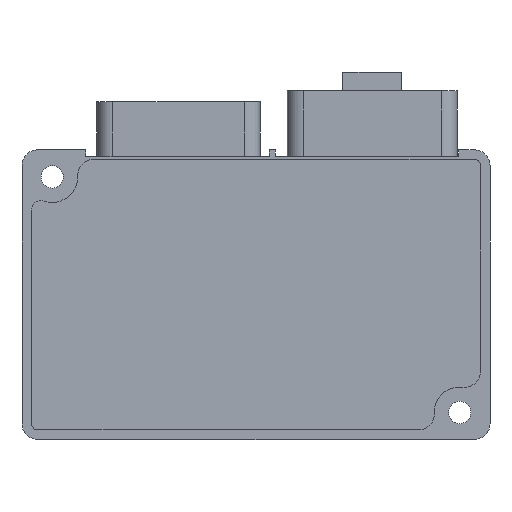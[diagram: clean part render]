
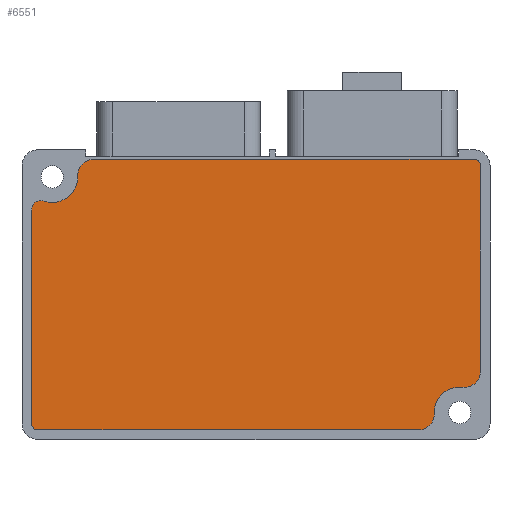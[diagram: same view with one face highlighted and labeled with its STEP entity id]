
A CAD part, front view. The second image highlights one B-rep face of the part: STEP entity #6551.
In plain terms, the highlighted planar face has unit normal (0, -1, 0).
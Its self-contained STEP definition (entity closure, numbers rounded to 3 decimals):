
#622=CARTESIAN_POINT('',(-67.5,-26.7,26.572));
#623=DIRECTION('',(0.,-1.,0.));
#624=DIRECTION('',(0.318,0.,0.948));
#625=AXIS2_PLACEMENT_3D('',#622,#623,#624);
#627=CARTESIAN_POINT('',(-64.,-26.7,37.));
#628=DIRECTION('',(0.,1.,0.));
#629=DIRECTION('',(0.999,0.,0.038));
#630=AXIS2_PLACEMENT_3D('',#627,#628,#629);
#632=CARTESIAN_POINT('',(-51.01,-26.7,37.5));
#633=DIRECTION('',(0.,-1.,0.));
#634=DIRECTION('',(0.,0.,1.));
#635=AXIS2_PLACEMENT_3D('',#632,#633,#634);
#637=DIRECTION('',(-1.,0.,0.));
#638=VECTOR('',#637,119.51);
#639=CARTESIAN_POINT('',(68.5,-26.7,42.5));
#640=LINE('',#639,#638);
#641=CARTESIAN_POINT('',(68.5,-26.7,40.5));
#642=DIRECTION('',(0.,-1.,0.));
#643=DIRECTION('',(1.,0.,0.));
#644=AXIS2_PLACEMENT_3D('',#641,#642,#643);
#646=DIRECTION('',(0.,0.,1.));
#647=VECTOR('',#646,64.587);
#648=CARTESIAN_POINT('',(70.5,-26.7,-24.087));
#649=LINE('',#648,#647);
#650=CARTESIAN_POINT('',(65.5,-26.7,-24.087));
#651=DIRECTION('',(0.,-1.,0.));
#652=DIRECTION('',(-0.115,0.,-0.993));
#653=AXIS2_PLACEMENT_3D('',#650,#651,#652);
#655=CARTESIAN_POINT('',(64.,-26.7,-37.));
#656=DIRECTION('',(0.,1.,0.));
#657=DIRECTION('',(-0.999,0.,-0.038));
#658=AXIS2_PLACEMENT_3D('',#655,#656,#657);
#660=CARTESIAN_POINT('',(51.01,-26.7,-37.5));
#661=DIRECTION('',(0.,-1.,0.));
#662=DIRECTION('',(0.,0.,-1.));
#663=AXIS2_PLACEMENT_3D('',#660,#661,#662);
#665=DIRECTION('',(1.,0.,0.));
#666=VECTOR('',#665,119.51);
#667=CARTESIAN_POINT('',(-68.5,-26.7,-42.5));
#668=LINE('',#667,#666);
#669=CARTESIAN_POINT('',(-68.5,-26.7,-40.5));
#670=DIRECTION('',(0.,-1.,0.));
#671=DIRECTION('',(-1.,0.,0.));
#672=AXIS2_PLACEMENT_3D('',#669,#670,#671);
#674=DIRECTION('',(0.,0.,-1.));
#675=VECTOR('',#674,67.072);
#676=CARTESIAN_POINT('',(-70.5,-26.7,26.572));
#677=LINE('',#676,#675);
#4739=CARTESIAN_POINT('',(70.5,-26.7,40.5));
#4740=CARTESIAN_POINT('',(68.5,-26.7,42.5));
#4741=VERTEX_POINT('',#4739);
#4742=VERTEX_POINT('',#4740);
#4743=CARTESIAN_POINT('',(-70.5,-26.7,-40.5));
#4744=CARTESIAN_POINT('',(-68.5,-26.7,-42.5));
#4745=VERTEX_POINT('',#4743);
#4746=VERTEX_POINT('',#4744);
#4755=CARTESIAN_POINT('',(-66.545,-26.7,29.416));
#4756=CARTESIAN_POINT('',(-70.5,-26.7,26.572));
#4757=VERTEX_POINT('',#4755);
#4758=VERTEX_POINT('',#4756);
#4763=CARTESIAN_POINT('',(-51.01,-26.7,42.5));
#4764=CARTESIAN_POINT('',(-56.006,-26.7,37.308));
#4765=VERTEX_POINT('',#4763);
#4766=VERTEX_POINT('',#4764);
#4771=CARTESIAN_POINT('',(64.923,-26.7,-29.053));
#4772=CARTESIAN_POINT('',(70.5,-26.7,-24.087));
#4773=VERTEX_POINT('',#4771);
#4774=VERTEX_POINT('',#4772);
#4779=CARTESIAN_POINT('',(51.01,-26.7,-42.5));
#4781=VERTEX_POINT('',#4779);
#4783=CARTESIAN_POINT('',(56.006,-26.7,-37.308));
#4784=VERTEX_POINT('',#4783);
#6522=CARTESIAN_POINT('',(0.,-26.7,0.));
#6523=DIRECTION('',(0.,-1.,0.));
#6524=DIRECTION('',(1.,0.,0.));
#6525=AXIS2_PLACEMENT_3D('',#6522,#6523,#6524);
#6526=PLANE('',#6525);
#6528=ORIENTED_EDGE('',*,*,#6527,.F.);
#6530=ORIENTED_EDGE('',*,*,#6529,.F.);
#6531=ORIENTED_EDGE('',*,*,#6513,.F.);
#6532=ORIENTED_EDGE('',*,*,#6503,.F.);
#6534=ORIENTED_EDGE('',*,*,#6533,.F.);
#6536=ORIENTED_EDGE('',*,*,#6535,.F.);
#6538=ORIENTED_EDGE('',*,*,#6537,.F.);
#6540=ORIENTED_EDGE('',*,*,#6539,.F.);
#6542=ORIENTED_EDGE('',*,*,#6541,.F.);
#6544=ORIENTED_EDGE('',*,*,#6543,.F.);
#6546=ORIENTED_EDGE('',*,*,#6545,.F.);
#6548=ORIENTED_EDGE('',*,*,#6547,.F.);
#6549=EDGE_LOOP('',(#6528,#6530,#6531,#6532,#6534,#6536,#6538,#6540,#6542,#6544,
#6546,#6548));
#6550=FACE_OUTER_BOUND('',#6549,.F.);
#6551=ADVANCED_FACE('',(#6550),#6526,.T.);
#626=CIRCLE('',#625,3.);
#631=CIRCLE('',#630,8.);
#636=CIRCLE('',#635,5.);
#645=CIRCLE('',#644,2.);
#654=CIRCLE('',#653,5.);
#659=CIRCLE('',#658,8.);
#664=CIRCLE('',#663,5.);
#673=CIRCLE('',#672,2.);
#6503=EDGE_CURVE('',#4742,#4765,#640,.T.);
#6513=EDGE_CURVE('',#4765,#4766,#636,.T.);
#6527=EDGE_CURVE('',#4757,#4758,#626,.T.);
#6529=EDGE_CURVE('',#4766,#4757,#631,.T.);
#6533=EDGE_CURVE('',#4741,#4742,#645,.T.);
#6535=EDGE_CURVE('',#4774,#4741,#649,.T.);
#6537=EDGE_CURVE('',#4773,#4774,#654,.T.);
#6539=EDGE_CURVE('',#4784,#4773,#659,.T.);
#6541=EDGE_CURVE('',#4781,#4784,#664,.T.);
#6543=EDGE_CURVE('',#4746,#4781,#668,.T.);
#6545=EDGE_CURVE('',#4745,#4746,#673,.T.);
#6547=EDGE_CURVE('',#4758,#4745,#677,.T.);
